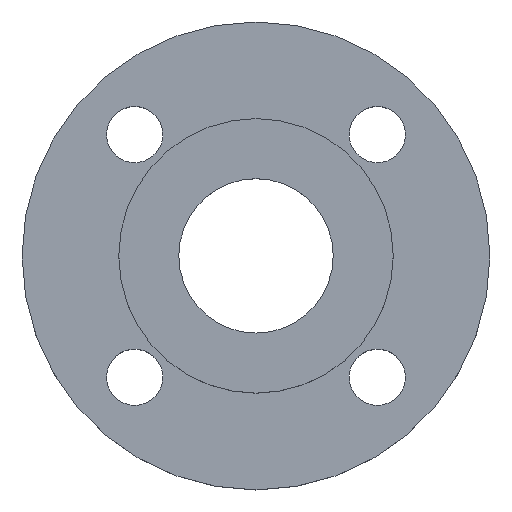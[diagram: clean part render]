
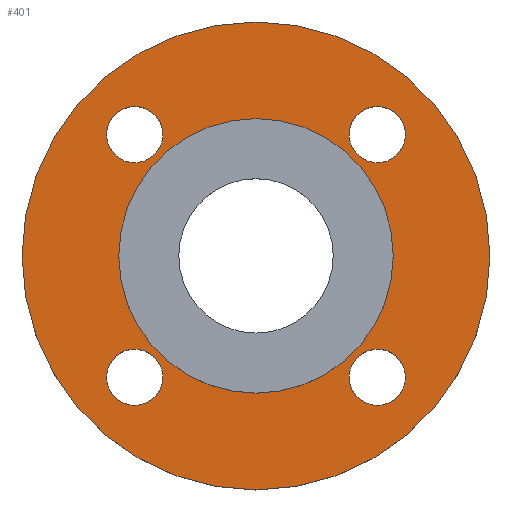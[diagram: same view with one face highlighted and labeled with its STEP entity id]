
A CAD part, top view. The second image highlights one B-rep face of the part: STEP entity #401.
In plain terms, the highlighted planar face has unit normal (0, 0, 1).
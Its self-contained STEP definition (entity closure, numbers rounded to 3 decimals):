
#2 = CIRCLE ( 'NONE', #102, 9. ) ;
#11 = CIRCLE ( 'NONE', #270, 9. ) ;
#13 = AXIS2_PLACEMENT_3D ( 'NONE', #416, #417, #418 ) ;
#18 = CIRCLE ( 'NONE', #222, 75. ) ;
#20 = VERTEX_POINT ( 'NONE', #632 ) ;
#22 = EDGE_LOOP ( 'NONE', ( #501, #502 ) ) ;
#29 = CARTESIAN_POINT ( 'NONE',  ( 38.891, 38.891, 0. ) ) ;
#44 = AXIS2_PLACEMENT_3D ( 'NONE', #616, #135, #99 ) ;
#68 = CIRCLE ( 'NONE', #75, 9. ) ;
#69 = CIRCLE ( 'NONE', #588, 9. ) ;
#75 = AXIS2_PLACEMENT_3D ( 'NONE', #29, #85, #274 ) ;
#85 = DIRECTION ( 'NONE',  ( 0., 0., -1. ) ) ;
#99 = DIRECTION ( 'NONE',  ( -1., 0., 0. ) ) ;
#102 = AXIS2_PLACEMENT_3D ( 'NONE', #379, #380, #381 ) ;
#104 = EDGE_CURVE ( 'NONE', #586, #499, #735, .T. ) ;
#105 = VERTEX_POINT ( 'NONE', #705 ) ;
#115 = CIRCLE ( 'NONE', #13, 9. ) ;
#135 = DIRECTION ( 'NONE',  ( 0., 0., -1. ) ) ;
#158 = AXIS2_PLACEMENT_3D ( 'NONE', #702, #703, #704 ) ;
#165 = EDGE_CURVE ( 'NONE', #499, #586, #208, .T. ) ;
#170 = AXIS2_PLACEMENT_3D ( 'NONE', #736, #737, #317 ) ;
#180 = CARTESIAN_POINT ( 'NONE',  ( -75., 0., 0. ) ) ;
#186 = CARTESIAN_POINT ( 'NONE',  ( 47.891, -38.891, 0. ) ) ;
#196 = CARTESIAN_POINT ( 'NONE',  ( 29.891, -38.891, 0. ) ) ;
#208 = CIRCLE ( 'NONE', #271, 9. ) ;
#211 = DIRECTION ( 'NONE',  ( 0., 0., 1. ) ) ;
#216 = CARTESIAN_POINT ( 'NONE',  ( -47.891, -38.891, 0. ) ) ;
#217 = EDGE_CURVE ( 'NONE', #479, #20, #245, .T. ) ;
#222 = AXIS2_PLACEMENT_3D ( 'NONE', #430, #431, #432 ) ;
#228 = CARTESIAN_POINT ( 'NONE',  ( 47.891, 38.891, 0. ) ) ;
#229 = AXIS2_PLACEMENT_3D ( 'NONE', #255, #211, #235 ) ;
#231 = CARTESIAN_POINT ( 'NONE',  ( 31.5, 0., 0. ) ) ;
#235 = DIRECTION ( 'NONE',  ( 1., 0., 0. ) ) ;
#238 = AXIS2_PLACEMENT_3D ( 'NONE', #729, #730, #731 ) ;
#240 = EDGE_CURVE ( 'NONE', #20, #479, #251, .T. ) ;
#241 = PLANE ( 'NONE',  #229 ) ;
#245 = CIRCLE ( 'NONE', #238, 31.5 ) ;
#250 = FACE_BOUND ( 'NONE', #476, .T. ) ;
#251 = CIRCLE ( 'NONE', #170, 31.5 ) ;
#252 = FACE_OUTER_BOUND ( 'NONE', #590, .T. ) ;
#253 = FACE_BOUND ( 'NONE', #312, .T. ) ;
#255 = CARTESIAN_POINT ( 'NONE',  ( 0., 0., 0. ) ) ;
#256 = FACE_BOUND ( 'NONE', #445, .T. ) ;
#257 = FACE_BOUND ( 'NONE', #22, .T. ) ;
#258 = FACE_BOUND ( 'NONE', #614, .T. ) ;
#264 = EDGE_CURVE ( 'NONE', #454, #327, #68, .T. ) ;
#270 = AXIS2_PLACEMENT_3D ( 'NONE', #406, #407, #408 ) ;
#271 = AXIS2_PLACEMENT_3D ( 'NONE', #720, #721, #722 ) ;
#274 = DIRECTION ( 'NONE',  ( -1., 0., 0. ) ) ;
#275 = CIRCLE ( 'NONE', #583, 75. ) ;
#276 = EDGE_CURVE ( 'NONE', #306, #585, #69, .T. ) ;
#280 = EDGE_CURVE ( 'NONE', #615, #105, #275, .T. ) ;
#287 = EDGE_CURVE ( 'NONE', #585, #306, #2, .T. ) ;
#292 = EDGE_CURVE ( 'NONE', #606, #601, #11, .T. ) ;
#296 = EDGE_CURVE ( 'NONE', #327, #454, #115, .T. ) ;
#306 = VERTEX_POINT ( 'NONE', #424 ) ;
#310 = EDGE_CURVE ( 'NONE', #105, #615, #18, .T. ) ;
#312 = EDGE_LOOP ( 'NONE', ( #511, #512 ) ) ;
#317 = DIRECTION ( 'NONE',  ( 1., 0., 0. ) ) ;
#327 = VERTEX_POINT ( 'NONE', #451 ) ;
#337 = CARTESIAN_POINT ( 'NONE',  ( -38.891, 38.891, 0. ) ) ;
#338 = CIRCLE ( 'NONE', #44, 9. ) ;
#339 = DIRECTION ( 'NONE',  ( 0., 0., -1. ) ) ;
#340 = DIRECTION ( 'NONE',  ( -1., 0., 0. ) ) ;
#354 = CARTESIAN_POINT ( 'NONE',  ( 0., 0., 0. ) ) ;
#355 = DIRECTION ( 'NONE',  ( 0., 0., 1. ) ) ;
#357 = DIRECTION ( 'NONE',  ( 1., 0., 0. ) ) ;
#379 = CARTESIAN_POINT ( 'NONE',  ( -38.891, 38.891, 0. ) ) ;
#380 = DIRECTION ( 'NONE',  ( 0., 0., -1. ) ) ;
#381 = DIRECTION ( 'NONE',  ( -1., 0., 0. ) ) ;
#401 = ADVANCED_FACE ( 'NONE', ( #258, #257, #256, #250, #253, #252 ), #241, .T. ) ;
#406 = CARTESIAN_POINT ( 'NONE',  ( 38.891, -38.891, 0. ) ) ;
#407 = DIRECTION ( 'NONE',  ( 0., 0., -1. ) ) ;
#408 = DIRECTION ( 'NONE',  ( -1., 0., 0. ) ) ;
#416 = CARTESIAN_POINT ( 'NONE',  ( 38.891, 38.891, 0. ) ) ;
#417 = DIRECTION ( 'NONE',  ( 0., 0., -1. ) ) ;
#418 = DIRECTION ( 'NONE',  ( -1., 0., 0. ) ) ;
#424 = CARTESIAN_POINT ( 'NONE',  ( -47.891, 38.891, 0. ) ) ;
#430 = CARTESIAN_POINT ( 'NONE',  ( 0., 0., 0. ) ) ;
#431 = DIRECTION ( 'NONE',  ( 0., 0., 1. ) ) ;
#432 = DIRECTION ( 'NONE',  ( 1., 0., 0. ) ) ;
#439 = CARTESIAN_POINT ( 'NONE',  ( -29.891, 38.891, 0. ) ) ;
#445 = EDGE_LOOP ( 'NONE', ( #503, #504 ) ) ;
#446 = CARTESIAN_POINT ( 'NONE',  ( -29.891, -38.891, 0. ) ) ;
#451 = CARTESIAN_POINT ( 'NONE',  ( 29.891, 38.891, 0. ) ) ;
#454 = VERTEX_POINT ( 'NONE', #228 ) ;
#476 = EDGE_LOOP ( 'NONE', ( #509, #510 ) ) ;
#479 = VERTEX_POINT ( 'NONE', #231 ) ;
#497 = ORIENTED_EDGE ( 'NONE', *, *, #292, .T. ) ;
#499 = VERTEX_POINT ( 'NONE', #216 ) ;
#500 = ORIENTED_EDGE ( 'NONE', *, *, #713, .T. ) ;
#501 = ORIENTED_EDGE ( 'NONE', *, *, #104, .T. ) ;
#502 = ORIENTED_EDGE ( 'NONE', *, *, #165, .T. ) ;
#503 = ORIENTED_EDGE ( 'NONE', *, *, #287, .T. ) ;
#504 = ORIENTED_EDGE ( 'NONE', *, *, #276, .T. ) ;
#509 = ORIENTED_EDGE ( 'NONE', *, *, #264, .T. ) ;
#510 = ORIENTED_EDGE ( 'NONE', *, *, #296, .T. ) ;
#511 = ORIENTED_EDGE ( 'NONE', *, *, #217, .F. ) ;
#512 = ORIENTED_EDGE ( 'NONE', *, *, #240, .F. ) ;
#513 = ORIENTED_EDGE ( 'NONE', *, *, #310, .T. ) ;
#514 = ORIENTED_EDGE ( 'NONE', *, *, #280, .T. ) ;
#583 = AXIS2_PLACEMENT_3D ( 'NONE', #354, #355, #357 ) ;
#585 = VERTEX_POINT ( 'NONE', #439 ) ;
#586 = VERTEX_POINT ( 'NONE', #446 ) ;
#588 = AXIS2_PLACEMENT_3D ( 'NONE', #337, #339, #340 ) ;
#590 = EDGE_LOOP ( 'NONE', ( #513, #514 ) ) ;
#601 = VERTEX_POINT ( 'NONE', #196 ) ;
#606 = VERTEX_POINT ( 'NONE', #186 ) ;
#614 = EDGE_LOOP ( 'NONE', ( #497, #500 ) ) ;
#615 = VERTEX_POINT ( 'NONE', #180 ) ;
#616 = CARTESIAN_POINT ( 'NONE',  ( 38.891, -38.891, 0. ) ) ;
#632 = CARTESIAN_POINT ( 'NONE',  ( -31.5, 0., 0. ) ) ;
#702 = CARTESIAN_POINT ( 'NONE',  ( -38.891, -38.891, 0. ) ) ;
#703 = DIRECTION ( 'NONE',  ( 0., 0., -1. ) ) ;
#704 = DIRECTION ( 'NONE',  ( -1., 0., 0. ) ) ;
#705 = CARTESIAN_POINT ( 'NONE',  ( 75., 0., 0. ) ) ;
#713 = EDGE_CURVE ( 'NONE', #601, #606, #338, .T. ) ;
#720 = CARTESIAN_POINT ( 'NONE',  ( -38.891, -38.891, 0. ) ) ;
#721 = DIRECTION ( 'NONE',  ( 0., 0., -1. ) ) ;
#722 = DIRECTION ( 'NONE',  ( -1., 0., 0. ) ) ;
#729 = CARTESIAN_POINT ( 'NONE',  ( 0., 0., 0. ) ) ;
#730 = DIRECTION ( 'NONE',  ( 0., 0., 1. ) ) ;
#731 = DIRECTION ( 'NONE',  ( 1., 0., 0. ) ) ;
#735 = CIRCLE ( 'NONE', #158, 9. ) ;
#736 = CARTESIAN_POINT ( 'NONE',  ( 0., 0., 0. ) ) ;
#737 = DIRECTION ( 'NONE',  ( 0., 0., 1. ) ) ;
